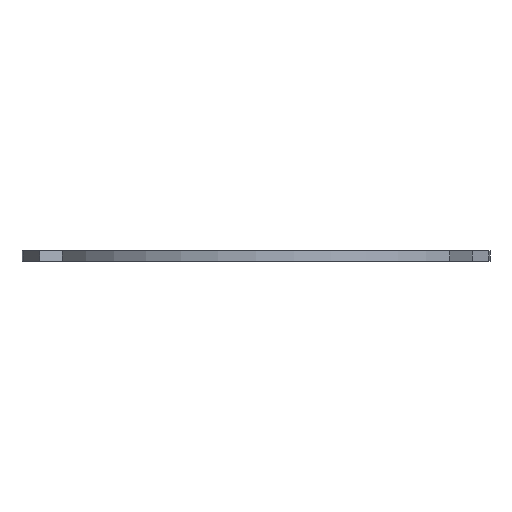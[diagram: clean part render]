
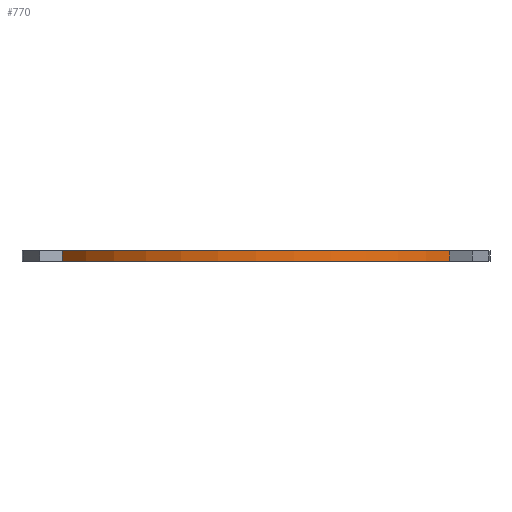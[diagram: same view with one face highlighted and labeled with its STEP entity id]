
A CAD part, left-side view. The second image highlights one B-rep face of the part: STEP entity #770.
In plain terms, the highlighted cylindrical face has radius 14 mm (diameter 28 mm), a partial arc.
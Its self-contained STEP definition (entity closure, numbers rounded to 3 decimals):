
#97 = PLANE('',#98);
#98 = AXIS2_PLACEMENT_3D('',#99,#100,#101);
#99 = CARTESIAN_POINT('',(0.,0.,0.));
#100 = DIRECTION('',(0.,0.,1.));
#101 = DIRECTION('',(1.,0.,-0.));
#326 = VERTEX_POINT('',#327);
#327 = CARTESIAN_POINT('',(-7.848,11.593,0.));
#348 = EDGE_CURVE('',#326,#349,#351,.T.);
#349 = VERTEX_POINT('',#350);
#350 = CARTESIAN_POINT('',(-7.848,-11.593,0.));
#351 = SURFACE_CURVE('',#352,(#357,#364),.PCURVE_S1.);
#352 = CIRCLE('',#353,14.);
#353 = AXIS2_PLACEMENT_3D('',#354,#355,#356);
#354 = CARTESIAN_POINT('',(0.,0.,0.));
#355 = DIRECTION('',(0.,0.,1.));
#356 = DIRECTION('',(1.,0.,-0.));
#357 = PCURVE('',#97,#358);
#358 = DEFINITIONAL_REPRESENTATION('',(#359),#363);
#359 = CIRCLE('',#360,14.);
#360 = AXIS2_PLACEMENT_2D('',#361,#362);
#361 = CARTESIAN_POINT('',(0.,0.));
#362 = DIRECTION('',(1.,0.));
#363 = ( GEOMETRIC_REPRESENTATION_CONTEXT(2) 
PARAMETRIC_REPRESENTATION_CONTEXT() REPRESENTATION_CONTEXT('2D SPACE',''
  ) );
#364 = PCURVE('',#365,#370);
#365 = CYLINDRICAL_SURFACE('',#366,14.);
#366 = AXIS2_PLACEMENT_3D('',#367,#368,#369);
#367 = CARTESIAN_POINT('',(0.,0.,0.));
#368 = DIRECTION('',(0.,0.,1.));
#369 = DIRECTION('',(1.,0.,-0.));
#370 = DEFINITIONAL_REPRESENTATION('',(#371),#375);
#371 = LINE('',#372,#373);
#372 = CARTESIAN_POINT('',(0.,0.));
#373 = VECTOR('',#374,1.);
#374 = DIRECTION('',(1.,0.));
#375 = ( GEOMETRIC_REPRESENTATION_CONTEXT(2) 
PARAMETRIC_REPRESENTATION_CONTEXT() REPRESENTATION_CONTEXT('2D SPACE',''
  ) );
#700 = PLANE('',#701);
#701 = AXIS2_PLACEMENT_3D('',#702,#703,#704);
#702 = CARTESIAN_POINT('',(0.,0.,0.6));
#703 = DIRECTION('',(0.,0.,1.));
#704 = DIRECTION('',(1.,0.,-0.));
#770 = ADVANCED_FACE('',(#771),#365,.T.);
#771 = FACE_BOUND('',#772,.T.);
#772 = EDGE_LOOP('',(#773,#799,#823,#824));
#773 = ORIENTED_EDGE('',*,*,#774,.F.);
#774 = EDGE_CURVE('',#775,#777,#779,.T.);
#775 = VERTEX_POINT('',#776);
#776 = CARTESIAN_POINT('',(-7.848,11.593,0.6));
#777 = VERTEX_POINT('',#778);
#778 = CARTESIAN_POINT('',(-7.848,-11.593,0.6));
#779 = SURFACE_CURVE('',#780,(#785,#792),.PCURVE_S1.);
#780 = CIRCLE('',#781,14.);
#781 = AXIS2_PLACEMENT_3D('',#782,#783,#784);
#782 = CARTESIAN_POINT('',(0.,0.,0.6));
#783 = DIRECTION('',(0.,0.,1.));
#784 = DIRECTION('',(1.,0.,-0.));
#785 = PCURVE('',#365,#786);
#786 = DEFINITIONAL_REPRESENTATION('',(#787),#791);
#787 = LINE('',#788,#789);
#788 = CARTESIAN_POINT('',(0.,0.6));
#789 = VECTOR('',#790,1.);
#790 = DIRECTION('',(1.,0.));
#791 = ( GEOMETRIC_REPRESENTATION_CONTEXT(2) 
PARAMETRIC_REPRESENTATION_CONTEXT() REPRESENTATION_CONTEXT('2D SPACE',''
  ) );
#792 = PCURVE('',#700,#793);
#793 = DEFINITIONAL_REPRESENTATION('',(#794),#798);
#794 = CIRCLE('',#795,14.);
#795 = AXIS2_PLACEMENT_2D('',#796,#797);
#796 = CARTESIAN_POINT('',(0.,0.));
#797 = DIRECTION('',(1.,0.));
#798 = ( GEOMETRIC_REPRESENTATION_CONTEXT(2) 
PARAMETRIC_REPRESENTATION_CONTEXT() REPRESENTATION_CONTEXT('2D SPACE',''
  ) );
#799 = ORIENTED_EDGE('',*,*,#800,.F.);
#800 = EDGE_CURVE('',#326,#775,#801,.T.);
#801 = SURFACE_CURVE('',#802,(#806,#812),.PCURVE_S1.);
#802 = LINE('',#803,#804);
#803 = CARTESIAN_POINT('',(-7.848,11.593,0.));
#804 = VECTOR('',#805,1.);
#805 = DIRECTION('',(0.,0.,1.));
#806 = PCURVE('',#365,#807);
#807 = DEFINITIONAL_REPRESENTATION('',(#808),#811);
#808 = B_SPLINE_CURVE_WITH_KNOTS('',1,(#809,#810),.UNSPECIFIED.,.F.,.F.,
  (2,2),(0.,0.6),.PIECEWISE_BEZIER_KNOTS.);
#809 = CARTESIAN_POINT('',(2.166,0.));
#810 = CARTESIAN_POINT('',(2.166,0.6));
#811 = ( GEOMETRIC_REPRESENTATION_CONTEXT(2) 
PARAMETRIC_REPRESENTATION_CONTEXT() REPRESENTATION_CONTEXT('2D SPACE',''
  ) );
#812 = PCURVE('',#813,#818);
#813 = PLANE('',#814);
#814 = AXIS2_PLACEMENT_3D('',#815,#816,#817);
#815 = CARTESIAN_POINT('',(-7.816,11.538,0.));
#816 = DIRECTION('',(-0.866,-0.5,0.));
#817 = DIRECTION('',(0.,0.,1.));
#818 = DEFINITIONAL_REPRESENTATION('',(#819),#822);
#819 = B_SPLINE_CURVE_WITH_KNOTS('',1,(#820,#821),.UNSPECIFIED.,.F.,.F.,
  (2,2),(0.,0.6),.PIECEWISE_BEZIER_KNOTS.);
#820 = CARTESIAN_POINT('',(0.,0.064));
#821 = CARTESIAN_POINT('',(0.6,0.064));
#822 = ( GEOMETRIC_REPRESENTATION_CONTEXT(2) 
PARAMETRIC_REPRESENTATION_CONTEXT() REPRESENTATION_CONTEXT('2D SPACE',''
  ) );
#823 = ORIENTED_EDGE('',*,*,#348,.T.);
#824 = ORIENTED_EDGE('',*,*,#825,.T.);
#825 = EDGE_CURVE('',#349,#777,#826,.T.);
#826 = SURFACE_CURVE('',#827,(#831,#837),.PCURVE_S1.);
#827 = LINE('',#828,#829);
#828 = CARTESIAN_POINT('',(-7.848,-11.593,0.));
#829 = VECTOR('',#830,1.);
#830 = DIRECTION('',(0.,0.,1.));
#831 = PCURVE('',#365,#832);
#832 = DEFINITIONAL_REPRESENTATION('',(#833),#836);
#833 = B_SPLINE_CURVE_WITH_KNOTS('',1,(#834,#835),.UNSPECIFIED.,.F.,.F.,
  (2,2),(0.,0.6),.PIECEWISE_BEZIER_KNOTS.);
#834 = CARTESIAN_POINT('',(4.117,0.));
#835 = CARTESIAN_POINT('',(4.117,0.6));
#836 = ( GEOMETRIC_REPRESENTATION_CONTEXT(2) 
PARAMETRIC_REPRESENTATION_CONTEXT() REPRESENTATION_CONTEXT('2D SPACE',''
  ) );
#837 = PCURVE('',#838,#843);
#838 = PLANE('',#839);
#839 = AXIS2_PLACEMENT_3D('',#840,#841,#842);
#840 = CARTESIAN_POINT('',(-7.816,-11.538,0.));
#841 = DIRECTION('',(0.866,-0.5,0.));
#842 = DIRECTION('',(0.,0.,1.));
#843 = DEFINITIONAL_REPRESENTATION('',(#844),#847);
#844 = B_SPLINE_CURVE_WITH_KNOTS('',1,(#845,#846),.UNSPECIFIED.,.F.,.F.,
  (2,2),(0.,0.6),.PIECEWISE_BEZIER_KNOTS.);
#845 = CARTESIAN_POINT('',(0.,0.064));
#846 = CARTESIAN_POINT('',(0.6,0.064));
#847 = ( GEOMETRIC_REPRESENTATION_CONTEXT(2) 
PARAMETRIC_REPRESENTATION_CONTEXT() REPRESENTATION_CONTEXT('2D SPACE',''
  ) );
